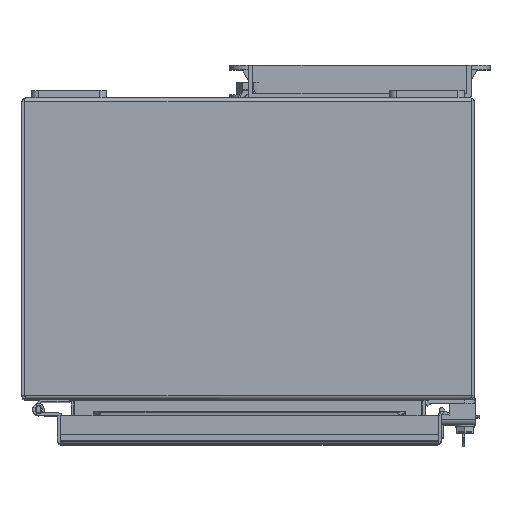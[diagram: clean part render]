
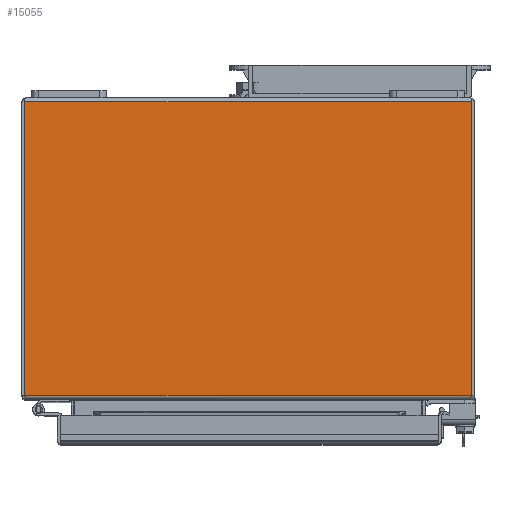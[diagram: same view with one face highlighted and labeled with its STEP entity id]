
A CAD part, top view. The second image highlights one B-rep face of the part: STEP entity #15055.
In plain terms, the highlighted planar face has unit normal (0, 0, 1).
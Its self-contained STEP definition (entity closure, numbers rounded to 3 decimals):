
#937=LINE('',#22799,#2419);
#941=LINE('',#22814,#2423);
#948=LINE('',#22827,#2430);
#950=LINE('',#22831,#2432);
#2419=VECTOR('',#18576,1000.);
#2423=VECTOR('',#18594,1000.);
#2430=VECTOR('',#18605,1000.);
#2432=VECTOR('',#18611,1000.);
#5715=ORIENTED_EDGE('',*,*,#9173,.T.);
#5716=ORIENTED_EDGE('',*,*,#9164,.T.);
#5717=ORIENTED_EDGE('',*,*,#9156,.T.);
#5718=ORIENTED_EDGE('',*,*,#9171,.T.);
#9156=EDGE_CURVE('',#11015,#11014,#937,.T.);
#9164=EDGE_CURVE('',#11019,#11015,#941,.T.);
#9171=EDGE_CURVE('',#11014,#11022,#948,.T.);
#9173=EDGE_CURVE('',#11022,#11019,#950,.T.);
#11014=VERTEX_POINT('',#22798);
#11015=VERTEX_POINT('',#22800);
#11019=VERTEX_POINT('',#22815);
#11022=VERTEX_POINT('',#22826);
#12585=EDGE_LOOP('',(#5715,#5716,#5717,#5718));
#13545=FACE_BOUND('',#12585,.T.);
#14370=PLANE('',#16243);
#15055=ADVANCED_FACE('',(#13545),#14370,.T.);
#16243=AXIS2_PLACEMENT_3D('',#22830,#18609,#18610);
#18576=DIRECTION('',(-1.,0.,0.));
#18594=DIRECTION('',(0.,1.,0.));
#18605=DIRECTION('',(0.,-1.,0.));
#18609=DIRECTION('',(0.,0.,1.));
#18610=DIRECTION('',(0.,-1.,0.));
#18611=DIRECTION('',(1.,0.,0.));
#22798=CARTESIAN_POINT('',(-150.569,-2.743,203.2));
#22799=CARTESIAN_POINT('',(149.657,-2.743,203.2));
#22800=CARTESIAN_POINT('',(150.569,-2.743,203.2));
#22814=CARTESIAN_POINT('',(150.569,-1.587,203.2));
#22815=CARTESIAN_POINT('',(150.569,-200.457,203.2));
#22826=CARTESIAN_POINT('',(-150.569,-200.457,203.2));
#22827=CARTESIAN_POINT('',(-150.569,-1.587,203.2));
#22830=CARTESIAN_POINT('',(149.657,-1.587,203.2));
#22831=CARTESIAN_POINT('',(150.569,-200.457,203.2));
